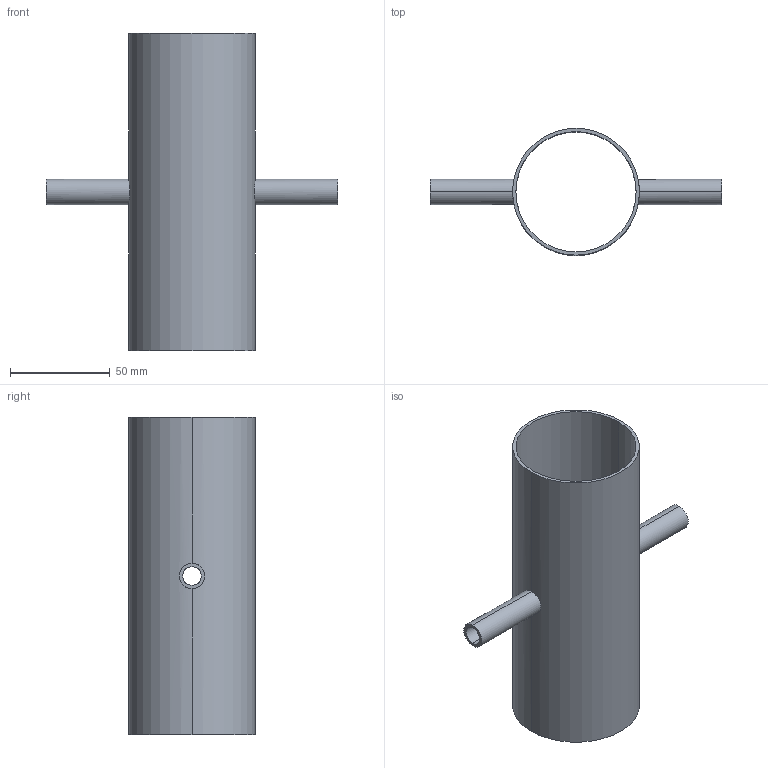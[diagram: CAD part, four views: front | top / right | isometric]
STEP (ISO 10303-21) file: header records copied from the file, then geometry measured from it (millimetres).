
FILE_DESCRIPTION (( 'STEP AP214' ), '1' );
FILE_NAME ('TE9RWWWW6L2.5x.5-...STEP', '2016-05-22T04:17:49', ( 'eran' ), ( '' ), 'SwSTEP 2.0', 'SolidWorks 2016', '' );
FILE_SCHEMA (( 'AUTOMOTIVE_DESIGN' ));
Length unit declared in the file: millimetre
Products named in the file (1): TE9RWWWW6L2.5x.5-..
Bounding box: 146.05 x 63.5 x 158.75 mm (x, y, z)
Volume: 55455.1 mm3; surface area: 67918.8 mm2
Topology: 1 solids, 1 shells, 16 faces, 40 edges, 24 vertices
Faces by surface type: cylinder 12, plane 4
Entity records: 802 total; most frequent: CARTESIAN_POINT 377, DIRECTION 82, ORIENTED_EDGE 80, EDGE_CURVE 40, AXIS2_PLACEMENT_3D 33, VERTEX_POINT 24, EDGE_LOOP 20, ADVANCED_FACE 16
